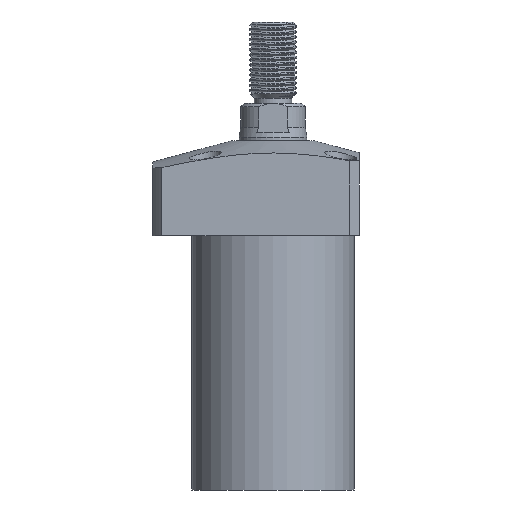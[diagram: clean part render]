
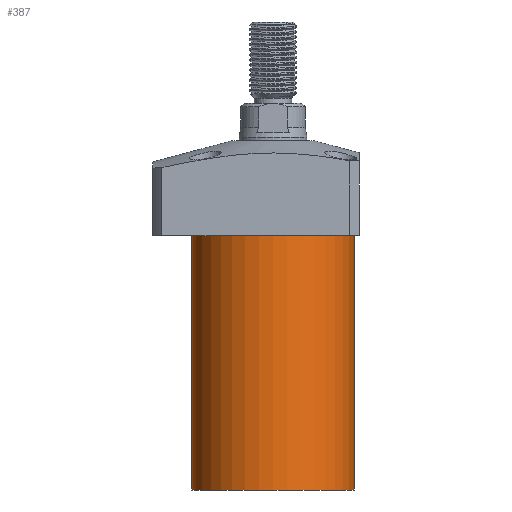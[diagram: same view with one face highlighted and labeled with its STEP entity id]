
A CAD part, front view. The second image highlights one B-rep face of the part: STEP entity #387.
In plain terms, the highlighted cylindrical face has radius 24 mm (diameter 48 mm), a partial arc.
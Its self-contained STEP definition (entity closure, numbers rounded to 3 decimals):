
#298 = DIRECTION ( 'NONE',  ( 0., 0., -1. ) ) ;
#387 = ADVANCED_FACE ( 'NONE', ( #825 ), #4580, .T. ) ;
#500 = CIRCLE ( 'NONE', #4429, 24. ) ;
#701 = DIRECTION ( 'NONE',  ( 0., 0., -1. ) ) ;
#702 = DIRECTION ( 'NONE',  ( 0., 0., 1. ) ) ;
#719 = AXIS2_PLACEMENT_3D ( 'NONE', #4758, #758, #4366 ) ;
#722 = DIRECTION ( 'NONE',  ( 1., 0., 0. ) ) ;
#758 = DIRECTION ( 'NONE',  ( 0., 0., 1. ) ) ;
#825 = FACE_OUTER_BOUND ( 'NONE', #2779, .T. ) ;
#915 = EDGE_CURVE ( 'NONE', #2756, #1509, #4074, .T. ) ;
#961 = VECTOR ( 'NONE', #702, 1000. ) ;
#1509 = VERTEX_POINT ( 'NONE', #1605 ) ;
#1530 = EDGE_CURVE ( 'NONE', #1509, #1969, #2038, .T. ) ;
#1553 = VECTOR ( 'NONE', #3405, 1000. ) ;
#1605 = CARTESIAN_POINT ( 'NONE',  ( -24., 0., -89. ) ) ;
#1620 = CARTESIAN_POINT ( 'NONE',  ( -24., 0., -89. ) ) ;
#1688 = CARTESIAN_POINT ( 'NONE',  ( 24., 0., -89. ) ) ;
#1906 = ORIENTED_EDGE ( 'NONE', *, *, #1530, .F. ) ;
#1969 = VERTEX_POINT ( 'NONE', #4353 ) ;
#2038 = LINE ( 'NONE', #1620, #961 ) ;
#2210 = ORIENTED_EDGE ( 'NONE', *, *, #2406, .T. ) ;
#2406 = EDGE_CURVE ( 'NONE', #3813, #1969, #500, .T. ) ;
#2587 = ORIENTED_EDGE ( 'NONE', *, *, #915, .F. ) ;
#2756 = VERTEX_POINT ( 'NONE', #1688 ) ;
#2779 = EDGE_LOOP ( 'NONE', ( #1906, #2587, #3872, #2210 ) ) ;
#3066 = DIRECTION ( 'NONE',  ( -1., 0., 0. ) ) ;
#3405 = DIRECTION ( 'NONE',  ( 0., 0., 1. ) ) ;
#3813 = VERTEX_POINT ( 'NONE', #4903 ) ;
#3872 = ORIENTED_EDGE ( 'NONE', *, *, #4407, .T. ) ;
#4074 = CIRCLE ( 'NONE', #4548, 24. ) ;
#4163 = CARTESIAN_POINT ( 'NONE',  ( 24., 0., -89. ) ) ;
#4304 = LINE ( 'NONE', #4163, #1553 ) ;
#4353 = CARTESIAN_POINT ( 'NONE',  ( -24., 0., -14. ) ) ;
#4366 = DIRECTION ( 'NONE',  ( 1., 0., 0. ) ) ;
#4407 = EDGE_CURVE ( 'NONE', #2756, #3813, #4304, .T. ) ;
#4429 = AXIS2_PLACEMENT_3D ( 'NONE', #5135, #298, #722 ) ;
#4548 = AXIS2_PLACEMENT_3D ( 'NONE', #4713, #701, #3066 ) ;
#4580 = CYLINDRICAL_SURFACE ( 'NONE', #719, 24. ) ;
#4713 = CARTESIAN_POINT ( 'NONE',  ( 0., 0., -89. ) ) ;
#4758 = CARTESIAN_POINT ( 'NONE',  ( 0., 0., -89. ) ) ;
#4903 = CARTESIAN_POINT ( 'NONE',  ( 24., 0., -14. ) ) ;
#5135 = CARTESIAN_POINT ( 'NONE',  ( 0., 0., -14. ) ) ;
